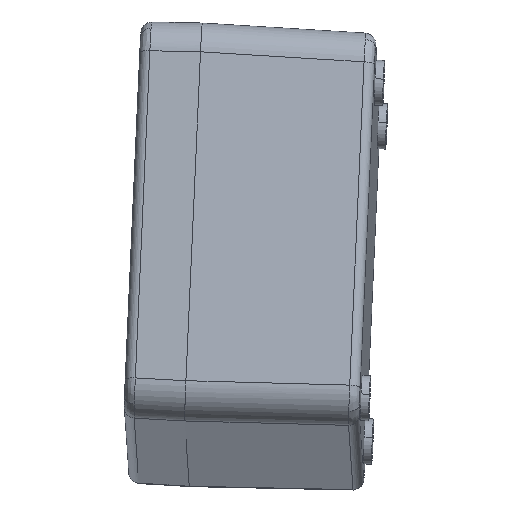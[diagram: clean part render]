
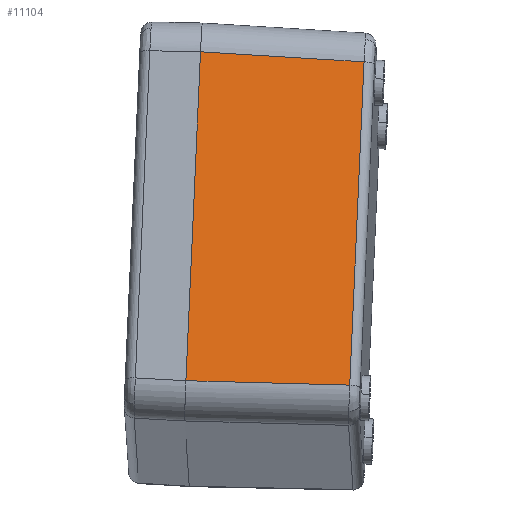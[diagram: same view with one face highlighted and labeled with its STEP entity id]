
A CAD part, left-side view. The second image highlights one B-rep face of the part: STEP entity #11104.
In plain terms, the highlighted planar face has unit normal (-0.985, -0.006, 0.172) as drawn and (0, -0.017, -1) by its records, which use the part's own axes.
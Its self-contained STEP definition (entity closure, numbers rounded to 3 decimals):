
#567 = ORIENTED_EDGE ( 'NONE', *, *, #3226, .F. ) ;
#1084 = CARTESIAN_POINT ( 'NONE',  ( -29., -23.526, -31.589 ) ) ;
#1922 = DIRECTION ( 'NONE',  ( -0.017, -1., 0.017 ) ) ;
#2092 = ORIENTED_EDGE ( 'NONE', *, *, #9014, .T. ) ;
#2547 = VERTEX_POINT ( 'NONE', #3973 ) ;
#2608 = VECTOR ( 'NONE', #8560, 1000. ) ;
#3211 = CARTESIAN_POINT ( 'NONE',  ( -29., 0., -32. ) ) ;
#3226 = EDGE_CURVE ( 'NONE', #6911, #2547, #9530, .T. ) ;
#3973 = CARTESIAN_POINT ( 'NONE',  ( -24.001, 0., -32. ) ) ;
#3993 = CARTESIAN_POINT ( 'NONE',  ( 23.59, -23.526, -31.589 ) ) ;
#4141 = PLANE ( 'NONE',  #4580 ) ;
#4272 = CARTESIAN_POINT ( 'NONE',  ( 24.001, 0., -32. ) ) ;
#4404 = VERTEX_POINT ( 'NONE', #5699 ) ;
#4549 = DIRECTION ( 'NONE',  ( -1., 0., 0. ) ) ;
#4580 = AXIS2_PLACEMENT_3D ( 'NONE', #3211, #7711, #5053 ) ;
#5053 = DIRECTION ( 'NONE',  ( 0., 1., -0.017 ) ) ;
#5433 = VECTOR ( 'NONE', #1922, 1000. ) ;
#5682 = VECTOR ( 'NONE', #4549, 1000. ) ;
#5699 = CARTESIAN_POINT ( 'NONE',  ( -23.59, -23.526, -31.589 ) ) ;
#5707 = LINE ( 'NONE', #8368, #5433 ) ;
#6144 = LINE ( 'NONE', #1084, #8851 ) ;
#6911 = VERTEX_POINT ( 'NONE', #4272 ) ;
#7030 = ORIENTED_EDGE ( 'NONE', *, *, #8566, .T. ) ;
#7711 = DIRECTION ( 'NONE',  ( 0., -0.017, -1. ) ) ;
#7976 = ORIENTED_EDGE ( 'NONE', *, *, #8102, .T. ) ;
#8102 = EDGE_CURVE ( 'NONE', #4404, #2547, #9886, .T. ) ;
#8368 = CARTESIAN_POINT ( 'NONE',  ( 23.985, -0.925, -31.984 ) ) ;
#8384 = DIRECTION ( 'NONE',  ( -1., 0., 0. ) ) ;
#8560 = DIRECTION ( 'NONE',  ( -0.017, 1., -0.017 ) ) ;
#8566 = EDGE_CURVE ( 'NONE', #10733, #4404, #6144, .T. ) ;
#8597 = EDGE_LOOP ( 'NONE', ( #2092, #7030, #7976, #567 ) ) ;
#8851 = VECTOR ( 'NONE', #8384, 1000. ) ;
#9014 = EDGE_CURVE ( 'NONE', #6911, #10733, #5707, .T. ) ;
#9042 = CARTESIAN_POINT ( 'NONE',  ( -29., 0., -32. ) ) ;
#9530 = LINE ( 'NONE', #9042, #5682 ) ;
#9886 = LINE ( 'NONE', #11261, #2608 ) ;
#10733 = VERTEX_POINT ( 'NONE', #3993 ) ;
#10891 = FACE_OUTER_BOUND ( 'NONE', #8597, .T. ) ;
#11104 = ADVANCED_FACE ( 'NONE', ( #10891 ), #4141, .T. ) ;
#11261 = CARTESIAN_POINT ( 'NONE',  ( -24.002, 0.087, -32.002 ) ) ;
